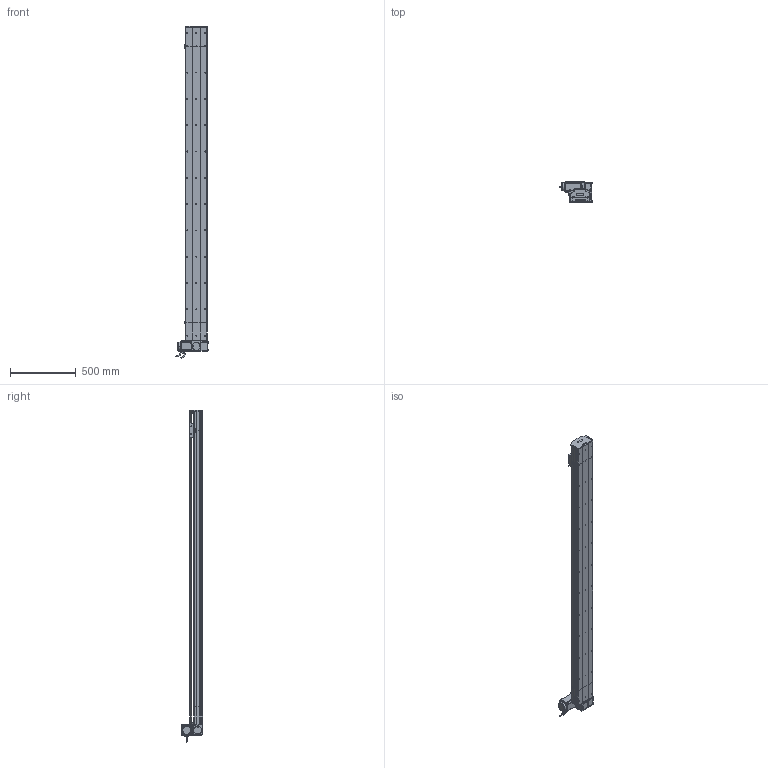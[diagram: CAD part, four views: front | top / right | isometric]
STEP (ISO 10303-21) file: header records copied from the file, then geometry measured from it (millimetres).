
FILE_DESCRIPTION (( 'STEP AP214' ), '1' );
FILE_NAME ('D17 TBN LT S2100.STEP', '2010-06-30T11:24:13', ( 'Christophe Gaillard' ), ( 'SGA' ), 'SwSTEP 2.0', 'SolidWorks 2010', '' );
FILE_SCHEMA (( 'AUTOMOTIVE_DESIGN' ));
Length unit declared in the file: millimetre
Products named in the file (40): couvercle D17B_Default; Head LT D17B_Default; couvercle D17B course L2100_Default; corpl head D17 _Default; couvercle D17B head_Default; plaque de  bout head D17B LT_Default; corps 90BLDC125A-640; vis M5 L25_Default; Renvoi LT_Default; cache arbre D17_Default; couroie head D17_Default; Conecteur2_Default; codeur 90BLDC125-640; Moteur motionking 90BLDC125A-640; avant 90BLDC125A-640; vis M5 L12_Default; plaque de  bout tail D17B_Default; Rail D17B; tete d''axe poulie D17B; corp tail D17B+100_Default; Tail D17B+100_Default; Vis M5 L16-2_Default; vis M5 L16_Default; Plaque racord D17_Default; vis M5 L70_Default; poulie tail_Default; Conecteur_Default; Couroie tail D17B_Default; vis M5 L8 90°_Default; Arbre+rail head D17B; cache D17_Default; vis M5 L5_Default; chariot D17 TBN; Chariot D17 TBN; guide D17; D17 TBN LT S2100; course 2100 D17B_Default; Couroie+ rail D17 Course 2100 ; corp D17B 2100_Default; poulie head_Default
Assembly tree (66 placements, depth 4):
  D17 TBN LT S2100
    course 2100 D17B_Default
      couvercle D17B course L2100_Default
      Couroie+ rail D17 Course 2100 
      corp D17B 2100_Default
    chariot D17 TBN
      guide D17  x2
      Chariot D17 TBN
    Tail D17B+100_Default
      plaque de  bout tail D17B_Default
      vis M5 L8 90°_Default  x2
      tete d''axe poulie D17B
      couvercle D17B_Default
      vis M5 L12_Default  x4
      Rail D17B
      corp tail D17B+100_Default
      vis M5 L25_Default  x2
      poulie tail_Default
      Couroie tail D17B_Default
    Head LT D17B_Default
      plaque de  bout head D17B LT_Default
      vis M5 L12_Default  x8
      cache D17_Default  x2
      cache arbre D17_Default
      vis M5 L5_Default  x4
      Vis M5 L16-2_Default  x4
      couroie head D17_Default
      corpl head D17 _Default
      Arbre+rail head D17B
      vis M5 L70_Default  x4
      Renvoi LT_Default
      vis M5 L16_Default  x2
      Moteur motionking 90BLDC125A-640
        avant 90BLDC125A-640
        Conecteur2_Default
        corps 90BLDC125A-640
        Conecteur_Default
        codeur 90BLDC125-640
      poulie head_Default
      Plaque racord D17_Default
      couvercle D17B head_Default
      vis M5 L25_Default  x2
Bounding box: 245.2 x 166.15 x 2523.95 mm (x, y, z)
Volume: 14693070.1 mm3; surface area: 4244617.3 mm2
Topology: 89 solids, 89 shells, 2607 faces, 6667 edges, 4298 vertices
Faces by surface type: plane 1537, cylinder 773, bspline 136, cone 80, torus 77, sphere 4
Entity records: 84597 total; most frequent: CARTESIAN_POINT 25169, ORIENTED_EDGE 10506, DIRECTION 9918, EDGE_CURVE 5253, LINE 3476, VECTOR 3476, VERTEX_POINT 3442, AXIS2_PLACEMENT_3D 3221
